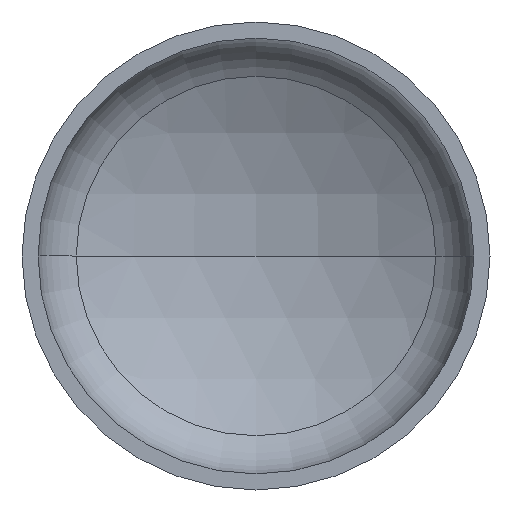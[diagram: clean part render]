
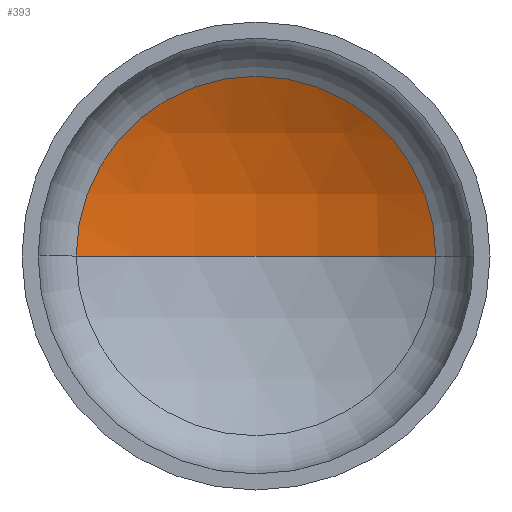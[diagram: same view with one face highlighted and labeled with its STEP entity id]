
A CAD part, front view. The second image highlights one B-rep face of the part: STEP entity #393.
In plain terms, the highlighted spherical face has radius 560 mm.
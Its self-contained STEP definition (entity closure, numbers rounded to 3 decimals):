
#1 = AXIS2_PLACEMENT_3D ( 'NONE', #264, #366, #215 ) ;
#22 = AXIS2_PLACEMENT_3D ( 'NONE', #362, #210, #380 ) ;
#25 = AXIS2_PLACEMENT_3D ( 'NONE', #184, #185, #161 ) ;
#26 = AXIS2_PLACEMENT_3D ( 'NONE', #208, #155, #175 ) ;
#68 = VERTEX_POINT ( 'NONE', #345 ) ;
#97 = CARTESIAN_POINT ( 'NONE',  ( 268.8, 171.5, 0. ) ) ;
#103 = CARTESIAN_POINT ( 'NONE',  ( -268.8, 171.5, 0. ) ) ;
#105 = ORIENTED_EDGE ( 'NONE', *, *, #354, .F. ) ;
#113 = VERTEX_POINT ( 'NONE', #97 ) ;
#146 = CIRCLE ( 'NONE', #25, 560. ) ;
#148 = VERTEX_POINT ( 'NONE', #103 ) ;
#155 = DIRECTION ( 'NONE',  ( 0., -1., 0. ) ) ;
#161 = DIRECTION ( 'NONE',  ( -1., 0., 0. ) ) ;
#165 = ORIENTED_EDGE ( 'NONE', *, *, #352, .T. ) ;
#174 = EDGE_LOOP ( 'NONE', ( #105, #165, #234 ) ) ;
#175 = DIRECTION ( 'NONE',  ( 1., 0., 0. ) ) ;
#184 = CARTESIAN_POINT ( 'NONE',  ( 0., -319.771, 0. ) ) ;
#185 = DIRECTION ( 'NONE',  ( 0., 0., -1. ) ) ;
#208 = CARTESIAN_POINT ( 'NONE',  ( 0., 171.5, 0. ) ) ;
#210 = DIRECTION ( 'NONE',  ( 0., 0., 1. ) ) ;
#215 = DIRECTION ( 'NONE',  ( -1., 0., 0. ) ) ;
#223 = CIRCLE ( 'NONE', #22, 560. ) ;
#234 = ORIENTED_EDGE ( 'NONE', *, *, #351, .T. ) ;
#264 = CARTESIAN_POINT ( 'NONE',  ( 0., -319.771, 0. ) ) ;
#273 = FACE_OUTER_BOUND ( 'NONE', #174, .T. ) ;
#278 = SPHERICAL_SURFACE ( 'NONE', #1, 560. ) ;
#299 = CIRCLE ( 'NONE', #26, 268.8 ) ;
#345 = CARTESIAN_POINT ( 'NONE',  ( 0., 240.229, 0. ) ) ;
#351 = EDGE_CURVE ( 'NONE', #113, #148, #299, .T. ) ;
#352 = EDGE_CURVE ( 'NONE', #68, #113, #146, .T. ) ;
#354 = EDGE_CURVE ( 'NONE', #68, #148, #223, .T. ) ;
#362 = CARTESIAN_POINT ( 'NONE',  ( 0., -319.771, 0. ) ) ;
#366 = DIRECTION ( 'NONE',  ( 0., 0., -1. ) ) ;
#380 = DIRECTION ( 'NONE',  ( 1., 0., 0. ) ) ;
#393 = ADVANCED_FACE ( 'NONE', ( #273 ), #278, .F. ) ;
